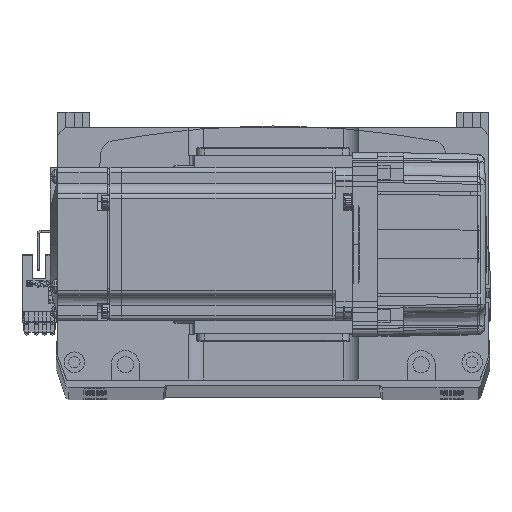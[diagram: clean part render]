
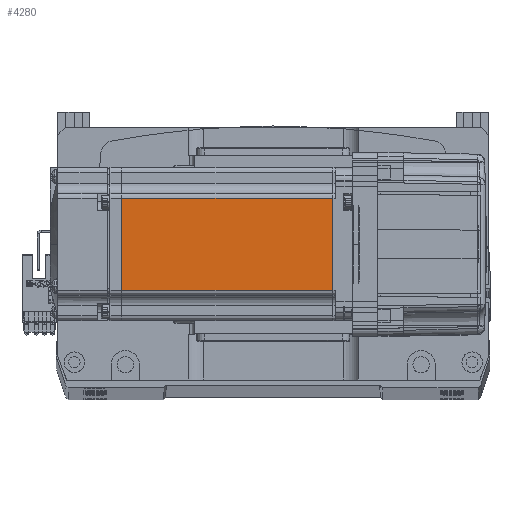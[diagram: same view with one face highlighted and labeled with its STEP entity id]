
A CAD part, top view. The second image highlights one B-rep face of the part: STEP entity #4280.
In plain terms, the highlighted planar face has unit normal (0, 0, 1).
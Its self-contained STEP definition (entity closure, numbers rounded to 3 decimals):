
#170 = CARTESIAN_POINT ( 'NONE',  ( -6.5, 18., 30. ) ) ;
#448 = VECTOR ( 'NONE', #15895, 1000. ) ;
#1329 = DIRECTION ( 'NONE',  ( 0., -1., 0. ) ) ;
#2594 = DIRECTION ( 'NONE',  ( 1., 0., 0. ) ) ;
#3399 = VECTOR ( 'NONE', #1329, 1000. ) ;
#3729 = CARTESIAN_POINT ( 'NONE',  ( -90.45, -18., 30. ) ) ;
#4280 = ADVANCED_FACE ( 'NONE', ( #51369 ), #51639, .T. ) ;
#4529 = DIRECTION ( 'NONE',  ( 0., -1., 0. ) ) ;
#6759 = EDGE_CURVE ( 'NONE', #38918, #10279, #14716, .T. ) ;
#10279 = VERTEX_POINT ( 'NONE', #24070 ) ;
#11004 = VECTOR ( 'NONE', #60005, 1000. ) ;
#14716 = LINE ( 'NONE', #170, #448 ) ;
#15617 = EDGE_CURVE ( 'NONE', #25362, #57966, #18525, .T. ) ;
#15895 = DIRECTION ( 'NONE',  ( -1., 0., 0. ) ) ;
#18525 = LINE ( 'NONE', #28715, #11004 ) ;
#19709 = DIRECTION ( 'NONE',  ( 0., 0., 1. ) ) ;
#22643 = CARTESIAN_POINT ( 'NONE',  ( -7.75, 0., 30. ) ) ;
#24070 = CARTESIAN_POINT ( 'NONE',  ( -90.45, 18., 30. ) ) ;
#25362 = VERTEX_POINT ( 'NONE', #28406 ) ;
#26468 = VECTOR ( 'NONE', #4529, 1000. ) ;
#26643 = AXIS2_PLACEMENT_3D ( 'NONE', #35062, #19709, #2594 ) ;
#28087 = EDGE_CURVE ( 'NONE', #10279, #57966, #29007, .T. ) ;
#28406 = CARTESIAN_POINT ( 'NONE',  ( -7.75, -18., 30. ) ) ;
#28715 = CARTESIAN_POINT ( 'NONE',  ( -6.5, -18., 30. ) ) ;
#29007 = LINE ( 'NONE', #52636, #26468 ) ;
#30148 = EDGE_CURVE ( 'NONE', #38918, #25362, #31791, .T. ) ;
#31791 = LINE ( 'NONE', #22643, #3399 ) ;
#32210 = ORIENTED_EDGE ( 'NONE', *, *, #6759, .T. ) ;
#35062 = CARTESIAN_POINT ( 'NONE',  ( -6.5, -25., 30. ) ) ;
#37185 = CARTESIAN_POINT ( 'NONE',  ( -7.75, 18., 30. ) ) ;
#38373 = ORIENTED_EDGE ( 'NONE', *, *, #28087, .T. ) ;
#38918 = VERTEX_POINT ( 'NONE', #37185 ) ;
#51369 = FACE_OUTER_BOUND ( 'NONE', #69336, .T. ) ;
#51639 = PLANE ( 'NONE',  #26643 ) ;
#52636 = CARTESIAN_POINT ( 'NONE',  ( -90.45, 0., 30. ) ) ;
#57966 = VERTEX_POINT ( 'NONE', #3729 ) ;
#60005 = DIRECTION ( 'NONE',  ( -1., 0., 0. ) ) ;
#61706 = ORIENTED_EDGE ( 'NONE', *, *, #15617, .F. ) ;
#64405 = ORIENTED_EDGE ( 'NONE', *, *, #30148, .F. ) ;
#69336 = EDGE_LOOP ( 'NONE', ( #64405, #32210, #38373, #61706 ) ) ;
